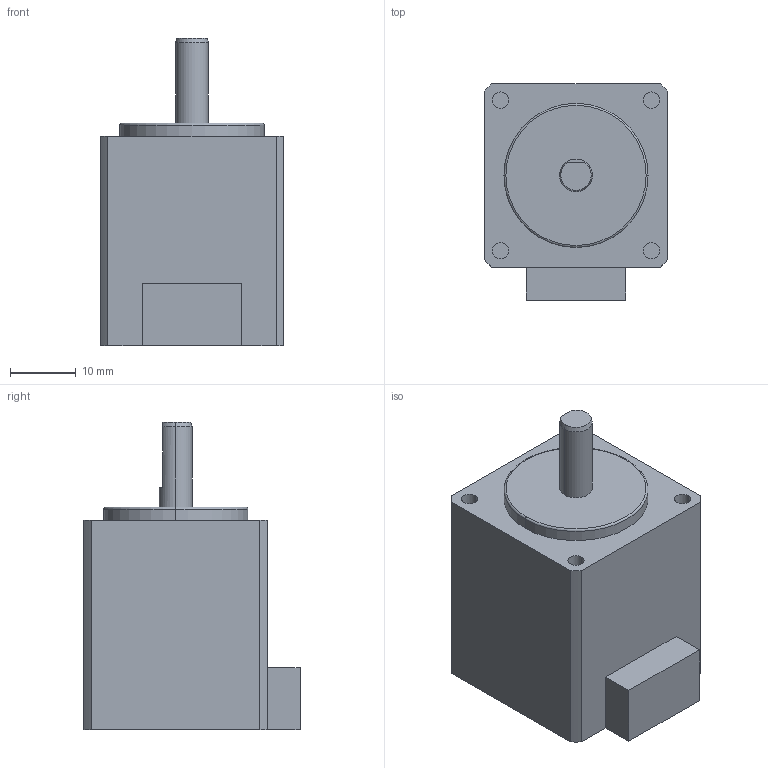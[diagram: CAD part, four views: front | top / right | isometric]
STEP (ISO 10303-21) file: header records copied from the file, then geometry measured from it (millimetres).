
FILE_DESCRIPTION (( 'STEP AP203' ), '1' );
FILE_NAME ('PMSB-U28DA1_3D.STEP', '2016-11-15T02:39:21', ( 'SKJ00869' ), ( '' ), 'SwSTEP 2.0', 'SolidWorks 2014', '' );
FILE_SCHEMA (( 'CONFIG_CONTROL_DESIGN' ));
Length unit declared in the file: millimetre
Products named in the file (1): PMSB-U28DA1_3D
Bounding box: 28 x 33 x 47 mm (x, y, z)
Volume: 26641.9 mm3; surface area: 6537.9 mm2
Topology: 2 solids, 2 shells, 40 faces, 89 edges, 58 vertices
Faces by surface type: plane 19, cylinder 16, cone 3, torus 2
Entity records: 1199 total; most frequent: DIRECTION 210, CARTESIAN_POINT 194, ORIENTED_EDGE 178, EDGE_CURVE 89, AXIS2_PLACEMENT_3D 82, VERTEX_POINT 58, VECTOR 46, LINE 46
